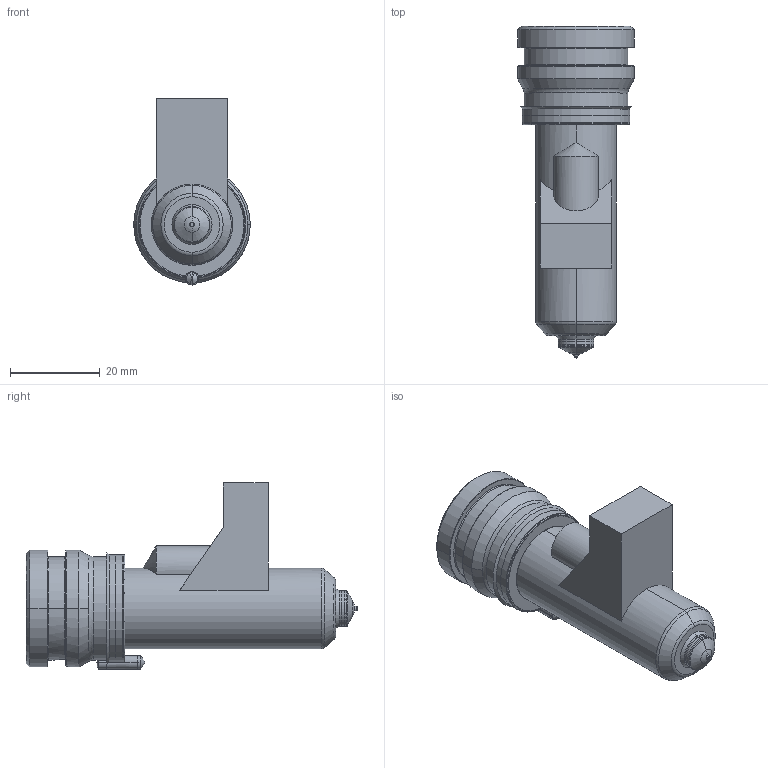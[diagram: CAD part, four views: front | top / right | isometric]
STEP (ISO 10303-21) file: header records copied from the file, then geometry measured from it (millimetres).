
FILE_DESCRIPTION((''),'2;1');
FILE_NAME('MPN-08-24-VSA8-056-M','2026-02-05T13:33:50',('UPTIO'),('Thermoplay S.p.A.'),'CREO PARAMETRIC BY PTC INC, 2023494','CREO PARAMETRIC BY PTC INC, 2023494','');
FILE_SCHEMA(('CONFIG_CONTROL_DESIGN','SHAPE_APPEARANCE_LAYERS_GROUPS'));
Length unit declared in the file: millimetre
Products named in the file (1): MPN-08-24-VSA8-056-M
Bounding box: 26 x 74 x 41.5 mm (x, y, z)
Volume: 16018.6 mm3; surface area: 20292.2 mm2
Topology: 2 solids, 3 shells, 527 faces, 1374 edges, 846 vertices
Faces by surface type: cylinder 176, plane 143, bspline 75, torus 60, cone 58, sphere 9, extrusion 6
Entity records: 28411 total; most frequent: CARTESIAN_POINT 12932, ORIENTED_EDGE 2730, DIRECTION 2497, EDGE_CURVE 1365, AXIS2_PLACEMENT_3D 975, VERTEX_POINT 846, EDGE_LOOP 557, VECTOR 547
